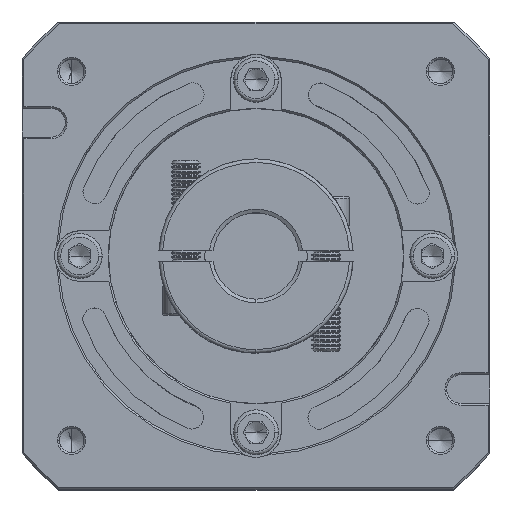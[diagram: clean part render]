
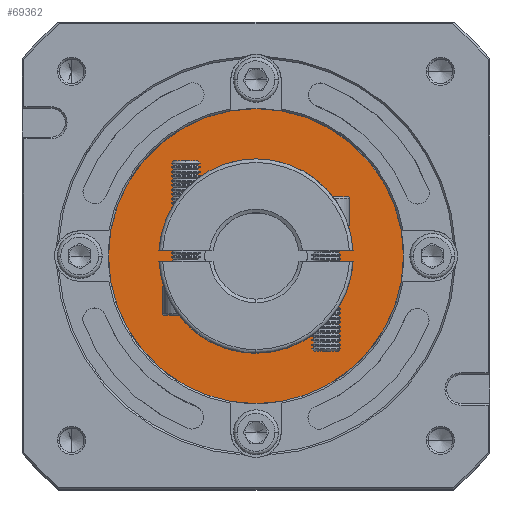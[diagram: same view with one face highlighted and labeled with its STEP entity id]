
A CAD part, top view. The second image highlights one B-rep face of the part: STEP entity #69362.
In plain terms, the highlighted planar face has unit normal (0, 0, 1).
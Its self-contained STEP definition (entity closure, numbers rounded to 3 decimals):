
#37 = VERTEX_POINT ( 'NONE', #79158 ) ;
#2306 = CARTESIAN_POINT ( 'NONE',  ( 66.738, 166.131, 9.981 ) ) ;
#4620 = AXIS2_PLACEMENT_3D ( 'NONE', #60308, #30951, #40263 ) ;
#6173 = CIRCLE ( 'NONE', #44480, 41. ) ;
#6310 = EDGE_CURVE ( 'NONE', #75768, #37, #6173, .T. ) ;
#12542 = CIRCLE ( 'NONE', #4620, 20. ) ;
#13324 = AXIS2_PLACEMENT_3D ( 'NONE', #101160, #46315, #118817 ) ;
#15320 = DIRECTION ( 'NONE',  ( 0., 0., 1. ) ) ;
#17758 = AXIS2_PLACEMENT_3D ( 'NONE', #2306, #21825, #95332 ) ;
#21438 = PLANE ( 'NONE',  #17758 ) ;
#21825 = DIRECTION ( 'NONE',  ( 0., 0., 1. ) ) ;
#28631 = EDGE_LOOP ( 'NONE', ( #110786, #44163 ) ) ;
#28790 = CARTESIAN_POINT ( 'NONE',  ( 66.738, 166.131, 9.981 ) ) ;
#30520 = VERTEX_POINT ( 'NONE', #46634 ) ;
#30951 = DIRECTION ( 'NONE',  ( 0., 0., -1. ) ) ;
#31250 = AXIS2_PLACEMENT_3D ( 'NONE', #28790, #83795, #84583 ) ;
#33317 = CIRCLE ( 'NONE', #13324, 20. ) ;
#34209 = DIRECTION ( 'NONE',  ( 1., 0., 0. ) ) ;
#34355 = CARTESIAN_POINT ( 'NONE',  ( 86.738, 166.131, 9.981 ) ) ;
#40263 = DIRECTION ( 'NONE',  ( 1., 0., 0. ) ) ;
#44163 = ORIENTED_EDGE ( 'NONE', *, *, #64064, .T. ) ;
#44480 = AXIS2_PLACEMENT_3D ( 'NONE', #61539, #15320, #34209 ) ;
#46315 = DIRECTION ( 'NONE',  ( 0., 0., -1. ) ) ;
#46634 = CARTESIAN_POINT ( 'NONE',  ( 46.738, 166.131, 9.981 ) ) ;
#47867 = CARTESIAN_POINT ( 'NONE',  ( 107.738, 166.131, 9.981 ) ) ;
#49437 = CIRCLE ( 'NONE', #31250, 41. ) ;
#50899 = EDGE_CURVE ( 'NONE', #76722, #30520, #33317, .T. ) ;
#52278 = ORIENTED_EDGE ( 'NONE', *, *, #86454, .T. ) ;
#53720 = FACE_BOUND ( 'NONE', #87139, .T. ) ;
#60308 = CARTESIAN_POINT ( 'NONE',  ( 66.738, 166.131, 9.981 ) ) ;
#60953 = FACE_OUTER_BOUND ( 'NONE', #28631, .T. ) ;
#61539 = CARTESIAN_POINT ( 'NONE',  ( 66.738, 166.131, 9.981 ) ) ;
#64064 = EDGE_CURVE ( 'NONE', #37, #75768, #49437, .T. ) ;
#69362 = ADVANCED_FACE ( 'NONE', ( #60953, #53720 ), #21438, .T. ) ;
#75768 = VERTEX_POINT ( 'NONE', #47867 ) ;
#76337 = ORIENTED_EDGE ( 'NONE', *, *, #50899, .T. ) ;
#76722 = VERTEX_POINT ( 'NONE', #34355 ) ;
#79158 = CARTESIAN_POINT ( 'NONE',  ( 25.738, 166.131, 9.981 ) ) ;
#83795 = DIRECTION ( 'NONE',  ( 0., 0., 1. ) ) ;
#84583 = DIRECTION ( 'NONE',  ( 1., 0., 0. ) ) ;
#86454 = EDGE_CURVE ( 'NONE', #30520, #76722, #12542, .T. ) ;
#87139 = EDGE_LOOP ( 'NONE', ( #76337, #52278 ) ) ;
#95332 = DIRECTION ( 'NONE',  ( 1., 0., 0. ) ) ;
#101160 = CARTESIAN_POINT ( 'NONE',  ( 66.738, 166.131, 9.981 ) ) ;
#110786 = ORIENTED_EDGE ( 'NONE', *, *, #6310, .T. ) ;
#118817 = DIRECTION ( 'NONE',  ( 1., 0., 0. ) ) ;
